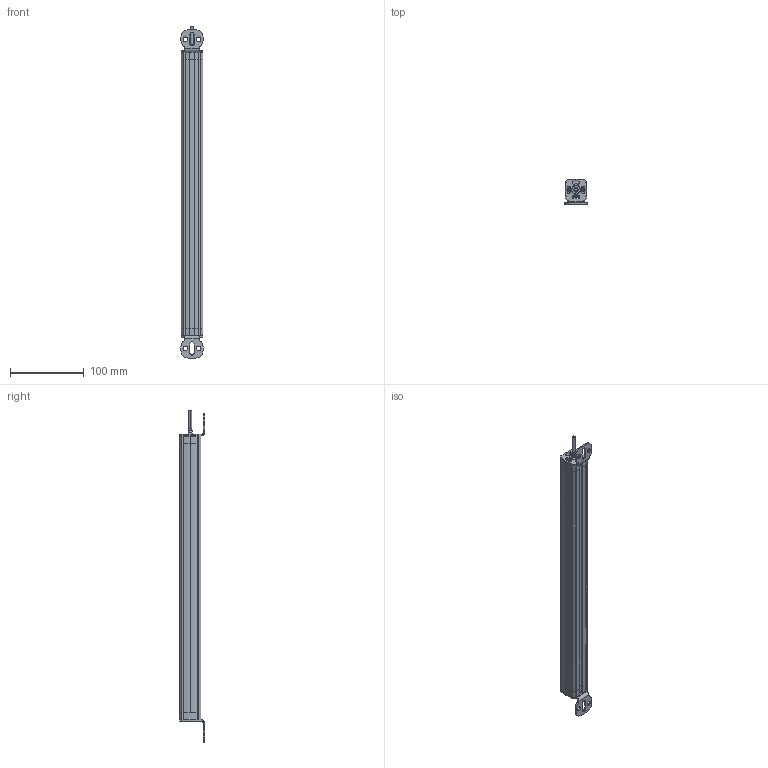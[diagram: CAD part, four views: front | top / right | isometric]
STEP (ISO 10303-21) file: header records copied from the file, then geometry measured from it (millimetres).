
FILE_DESCRIPTION (( 'STEP AP203' ), '1' );
FILE_NAME ('KT14-26350.STEP', '2022-08-24T06:57:41', ( '微软用户' ), ( '微软中国' ), 'SwSTEP 2.0', 'SolidWorks 2020', '' );
FILE_SCHEMA (( 'CONFIG_CONTROL_DESIGN' ));
Length unit declared in the file: millimetre
Products named in the file (4): 29x29倰第; 光同步29X29 出线塑料盖1; KT14-26350; 光同步29X29 出线塑料盖2
Assembly tree (3 placements, depth 2):
  KT14-26350
    29x29倰第
    光同步29X29 出线塑料盖1
    光同步29X29 出线塑料盖2
Bounding box: 30 x 34 x 450 mm (x, y, z)
Volume: 280050.4 mm3; surface area: 69238 mm2
Topology: 4 solids, 12 shells, 661 faces, 1760 edges, 1138 vertices
Faces by surface type: cylinder 299, plane 269, bspline 54, cone 39
Entity records: 30323 total; most frequent: CARTESIAN_POINT 13492, ORIENTED_EDGE 3510, DIRECTION 3352, EDGE_CURVE 1758, AXIS2_PLACEMENT_3D 1220, VERTEX_POINT 1138, VECTOR 912, LINE 912
